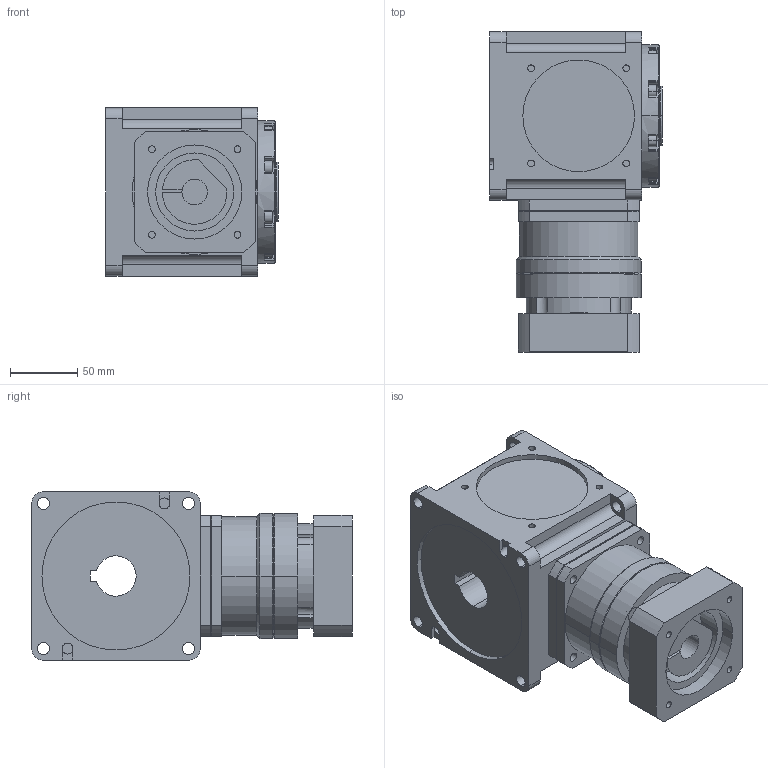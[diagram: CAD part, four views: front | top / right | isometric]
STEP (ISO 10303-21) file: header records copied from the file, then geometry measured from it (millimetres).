
FILE_DESCRIPTION (( 'STEP AP214' ), '1' );
FILE_NAME ('CCW125A-L2(6~20)-CR 19-70-90-M6.STEP', '2025-05-20T06:14:26', ( '微软用户' ), ( '微软中国' ), 'SwSTEP 2.0', 'SolidWorks 2024', '' );
FILE_SCHEMA (( 'AUTOMOTIVE_DESIGN' ));
Length unit declared in the file: millimetre
Products named in the file (3): VRB-090-L1-S2-P1 19-70-90-M6; CCW125A-002-CR箱体; CCW125A-L2(6~20)-CR 19-70-90-M6
Assembly tree (2 placements, depth 2):
  CCW125A-L2(6~20)-CR 19-70-90-M6
    CCW125A-002-CR箱体
    VRB-090-L1-S2-P1 19-70-90-M6
Bounding box: 128 x 238 x 125 mm (x, y, z)
Volume: 2361015.8 mm3; surface area: 191917.3 mm2
Topology: 2 solids, 2 shells, 494 faces, 1189 edges, 733 vertices
Faces by surface type: cylinder 202, plane 188, torus 45, cone 43, sphere 16
Entity records: 14514 total; most frequent: DIRECTION 2704, CARTESIAN_POINT 2538, ORIENTED_EDGE 2342, EDGE_CURVE 1171, AXIS2_PLACEMENT_3D 1061, VERTEX_POINT 733, LINE 582, VECTOR 582
